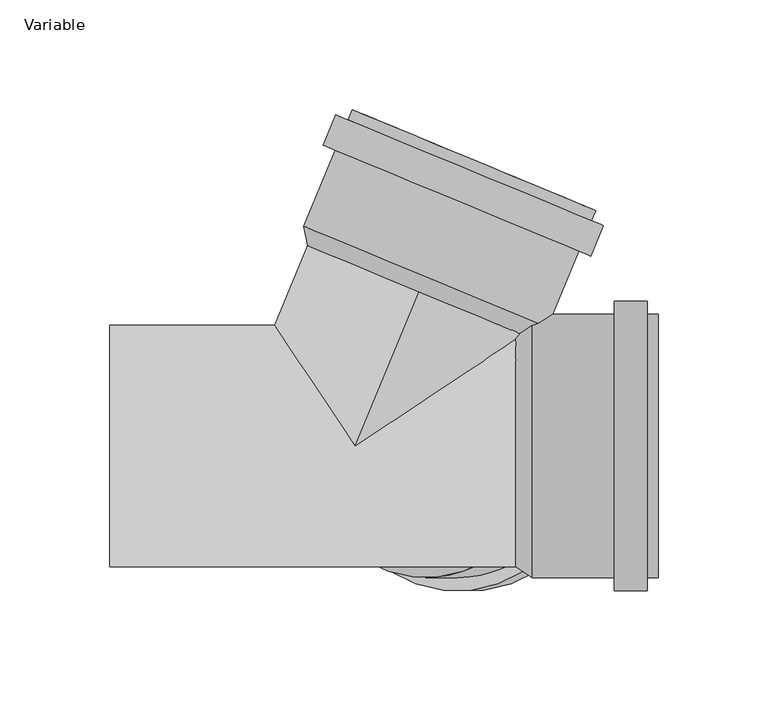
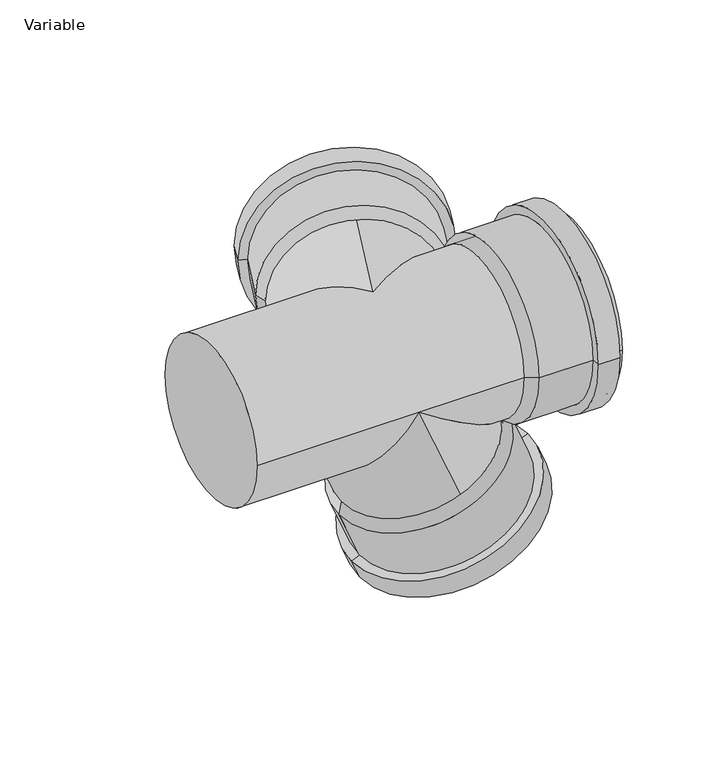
"""IFC4 building model written with IfcOpenShell, lengths in millimetres: pipe fitting geometry, AliaxisFR_Friaphon_DoubleCornerBranch_FR : Variable."""

from ifc_helpers import new_model, si_unit, frame, origin, place, context, project, spatial, polyline, circle_curve, ellipse_curve, source, transform, mapped, element, save
from ifc_brep_helpers import plane_surface, cylinder_surface, revolved_surface, advanced_brep


def variable_82db6654(model_context):
    return source(origin(), model_context, "Body", "AdvancedBrep", [
        advanced_brep(
        [(109.3911359, 0.0, -107.3060081), (-1.474408, 0.0, -153.22802), (3.1449897, 0.0, -151.3146029), (104.7717383, 0.0, -109.2194253), (107.2807445, 0.0, -86.5323169), (-14.6713538, 0.0, -137.04653), (-8.9311023, 0.0, -150.904723), (113.0209959, 0.0, -100.3905099), (101.7374673, 0.0, -88.8284175), (-9.1280766, 0.0, -134.7504294), (87.3868386, 0.0, -54.182935), (-23.4787053, 0.0, -100.1049469), (-21.7294334, 0.0, -91.2624333), (79.8973151, 0.0, -49.1672557), (107.4777188, 0.0, -102.6866105), (-3.3878251, 0.0, -148.6086224)],
        [
            (0, 1, circle_curve(frame((53.958364, 0.0, -130.2670141), z_axis=(0.38268343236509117, 0.0, -0.9238795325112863), x_axis=(-0.9238795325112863, 0.0, -0.38268343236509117)), 60.0)),
            (1, 2),
            (2, 3, circle_curve(frame((53.958364, 0.0, -130.2670141), z_axis=(-0.38268343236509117, 0.0, 0.9238795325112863), x_axis=(-0.9238795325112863, 0.0, -0.38268343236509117)), 55.0)),
            (3, 0),
            (1, 0, circle_curve(frame((53.958364, 0.0, -130.2670141), z_axis=(0.38268343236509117, 0.0, -0.9238795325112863), x_axis=(-0.9238795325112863, 0.0, -0.38268343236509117)), 60.0)),
            (3, 2, circle_curve(frame((53.958364, 0.0, -130.2670141), z_axis=(-0.38268343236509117, 0.0, 0.9238795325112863), x_axis=(-0.9238795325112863, 0.0, -0.38268343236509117)), 55.0)),
            (4, 5, circle_curve(frame((46.3046953, 0.0, -111.7894234), z_axis=(0.38268343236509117, 0.0, -0.9238795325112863), x_axis=(-0.9238795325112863, 0.0, -0.38268343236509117)), 66.0)),
            (5, 6),
            (6, 7, circle_curve(frame((52.0449468, 0.0, -125.6476164), z_axis=(-0.38268343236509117, 0.0, 0.9238795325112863), x_axis=(-0.9238795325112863, 0.0, -0.38268343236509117)), 66.0)),
            (7, 4),
            (5, 4, circle_curve(frame((46.3046953, 0.0, -111.7894234), z_axis=(0.38268343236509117, 0.0, -0.9238795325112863), x_axis=(-0.9238795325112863, 0.0, -0.38268343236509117)), 66.0)),
            (7, 6, circle_curve(frame((52.0449468, 0.0, -125.6476164), z_axis=(-0.38268343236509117, 0.0, 0.9238795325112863), x_axis=(-0.9238795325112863, 0.0, -0.38268343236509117)), 66.0)),
            (8, 9, circle_curve(frame((46.3046953, 0.0, -111.7894234), z_axis=(0.38268343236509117, 0.0, -0.9238795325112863), x_axis=(-0.9238795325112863, 0.0, -0.38268343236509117)), 60.0)),
            (9, 5),
            (4, 8),
            (9, 8, circle_curve(frame((46.3046953, 0.0, -111.7894234), z_axis=(0.38268343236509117, 0.0, -0.9238795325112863), x_axis=(-0.9238795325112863, 0.0, -0.38268343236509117)), 60.0)),
            (10, 11, circle_curve(frame((31.9540666, 0.0, -77.143941), z_axis=(0.38268343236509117, 0.0, -0.9238795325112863), x_axis=(-0.9238795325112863, 0.0, -0.38268343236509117)), 60.0)),
            (11, 9),
            (8, 10),
            (11, 10, circle_curve(frame((31.9540666, 0.0, -77.143941), z_axis=(0.38268343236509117, 0.0, -0.9238795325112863), x_axis=(-0.9238795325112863, 0.0, -0.38268343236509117)), 60.0)),
            (2, 12),
            (12, 13, circle_curve(frame((29.0839409, 0.0, -70.2148445), z_axis=(-0.38268343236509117, 0.0, 0.9238795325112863), x_axis=(-0.9238795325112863, 0.0, -0.38268343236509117)), 55.0)),
            (13, 3),
            (13, 12, circle_curve(frame((29.0839409, 0.0, -70.2148445), z_axis=(-0.38268343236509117, 0.0, 0.9238795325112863), x_axis=(-0.9238795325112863, 0.0, -0.38268343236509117)), 55.0)),
            (12, 11),
            (10, 13),
            (14, 15, circle_curve(frame((52.0449468, 0.0, -125.6476164), z_axis=(0.38268343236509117, 0.0, -0.9238795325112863), x_axis=(-0.9238795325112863, 0.0, -0.38268343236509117)), 60.0)),
            (15, 1),
            (0, 14),
            (15, 14, circle_curve(frame((52.0449468, 0.0, -125.6476164), z_axis=(0.38268343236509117, 0.0, -0.9238795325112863), x_axis=(-0.9238795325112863, 0.0, -0.38268343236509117)), 60.0)),
            (6, 15),
            (14, 7),
        ],
        [
            plane_surface(frame((53.958364, 0.0, -130.2670141), z_axis=(0.38268343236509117, 0.0, -0.9238795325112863), x_axis=(-0.9238795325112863, 0.0, -0.38268343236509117))),
            cylinder_surface(frame((29.0839409, 0.0, -70.2148445), z_axis=(-0.38268343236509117, 0.0, 0.9238795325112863), x_axis=(-0.9238795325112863, 0.0, -0.38268343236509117)), 66.0),
            plane_surface(frame((46.3046953, 0.0, -111.7894234), z_axis=(-0.38268343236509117, 0.0, 0.9238795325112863), x_axis=(-0.9238795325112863, 0.0, -0.38268343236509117))),
            cylinder_surface(frame((29.0839409, 0.0, -70.2148445), z_axis=(-0.38268343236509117, 0.0, 0.9238795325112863), x_axis=(-0.9238795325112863, 0.0, -0.38268343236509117)), 60.0),
            revolved_surface(polyline([(-21.72943340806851, 0.0, -91.26243323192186), (3.1449897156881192, 0.0, -151.31460289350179)]), (29.0839409, 0.0, -70.2148445), (-0.38268343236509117, 0.0, 0.9238795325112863)),
            revolved_surface(polyline([(-23.4787053, 0.0, -100.1049469), (-21.7294334, 0.0, -91.2624333)]), (29.0839409, 0.0, -70.2148445), (-0.38268343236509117, 0.0, 0.9238795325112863)),
            plane_surface(frame((52.0449468, 0.0, -125.6476164), z_axis=(0.38268343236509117, 0.0, -0.9238795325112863), x_axis=(-0.9238795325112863, 0.0, -0.38268343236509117))),
        ],
        [
            (0, [[1, 2, 3, 4]]),
            (0, [[5, -4, 6, -2]]),
            (1, [[7, 8, 9, 10]]),
            (1, [[11, -10, 12, -8]]),
            (2, [[13, 14, -7, 15]]),
            (2, [[16, -15, -11, -14]]),
            (3, [[17, 18, -13, 19]]),
            (3, [[20, -19, -16, -18]]),
            (4, [[-3, 21, 22, 23]]),
            (4, [[-6, -23, 24, -21]]),
            (5, [[-22, 25, -17, 26]]),
            (5, [[-24, -26, -20, -25]]),
            (3, [[27, 28, -1, 29]]),
            (3, [[30, -29, -5, -28]]),
            (6, [[-9, 31, -27, 32]]),
            (6, [[-12, -32, -30, -31]]),
        ],
    ),
        advanced_brep(
        [(138.0, -60.0, 0.0), (138.0, 60.0, 0.0), (138.0, 55.0, 0.0), (138.0, -55.0, 0.0), (118.0, -66.0, 0.0), (118.0, 66.0, 0.0), (133.0, 66.0, 0.0), (133.0, -66.0, 0.0), (118.0, -60.0, 0.0), (118.0, 60.0, 0.0), (80.5, -60.0, 0.0), (80.5, 60.0, 0.0), (73.0, 55.0, 0.0), (73.0, -55.0, 0.0), (133.0, -60.0, 0.0), (133.0, 60.0, 0.0)],
        [
            (0, 1, circle_curve(frame((138.0, 0.0, 0.0), z_axis=(1.0, 0.0, 0.0), x_axis=(0.0, 1.0, 0.0)), 60.0)),
            (1, 2),
            (2, 3, circle_curve(frame((138.0, 0.0, 0.0), z_axis=(-1.0, 0.0, 0.0), x_axis=(0.0, 1.0, 0.0)), 55.0)),
            (3, 0),
            (1, 0, circle_curve(frame((138.0, 0.0, 0.0), z_axis=(1.0, 0.0, 0.0), x_axis=(0.0, 1.0, 0.0)), 60.0)),
            (3, 2, circle_curve(frame((138.0, 0.0, 0.0), z_axis=(-1.0, 0.0, 0.0), x_axis=(0.0, 1.0, 0.0)), 55.0)),
            (4, 5, circle_curve(frame((118.0, 0.0, 0.0), z_axis=(1.0, 0.0, 0.0), x_axis=(0.0, 1.0, 0.0)), 66.0)),
            (5, 6),
            (6, 7, circle_curve(frame((133.0, 0.0, 0.0), z_axis=(-1.0, 0.0, 0.0), x_axis=(0.0, 1.0, 0.0)), 66.0)),
            (7, 4),
            (5, 4, circle_curve(frame((118.0, 0.0, 0.0), z_axis=(1.0, 0.0, 0.0), x_axis=(0.0, 1.0, 0.0)), 66.0)),
            (7, 6, circle_curve(frame((133.0, 0.0, 0.0), z_axis=(-1.0, 0.0, 0.0), x_axis=(0.0, 1.0, 0.0)), 66.0)),
            (8, 9, circle_curve(frame((118.0, 0.0, 0.0), z_axis=(1.0, 0.0, 0.0), x_axis=(0.0, 1.0, 0.0)), 60.0)),
            (9, 5),
            (4, 8),
            (9, 8, circle_curve(frame((118.0, 0.0, 0.0), z_axis=(1.0, 0.0, 0.0), x_axis=(0.0, 1.0, 0.0)), 60.0)),
            (10, 11, circle_curve(frame((80.5, 0.0, 0.0), z_axis=(1.0, 0.0, 0.0), x_axis=(0.0, 1.0, 0.0)), 60.0)),
            (11, 9),
            (8, 10),
            (11, 10, circle_curve(frame((80.5, 0.0, 0.0), z_axis=(1.0, 0.0, 0.0), x_axis=(0.0, 1.0, 0.0)), 60.0)),
            (2, 12),
            (12, 13, circle_curve(frame((73.0, 0.0, 0.0), z_axis=(-1.0, 0.0, 0.0), x_axis=(0.0, 1.0, 0.0)), 55.0)),
            (13, 3),
            (13, 12, circle_curve(frame((73.0, 0.0, 0.0), z_axis=(-1.0, 0.0, 0.0), x_axis=(0.0, 1.0, 0.0)), 55.0)),
            (12, 11),
            (10, 13),
            (14, 15, circle_curve(frame((133.0, 0.0, 0.0), z_axis=(1.0, 0.0, 0.0), x_axis=(0.0, 1.0, 0.0)), 60.0)),
            (15, 1),
            (0, 14),
            (15, 14, circle_curve(frame((133.0, 0.0, 0.0), z_axis=(1.0, 0.0, 0.0), x_axis=(0.0, 1.0, 0.0)), 60.0)),
            (6, 15),
            (14, 7),
        ],
        [
            plane_surface(frame((138.0, 0.0, 0.0), z_axis=(1.0, 0.0, 0.0), x_axis=(0.0, 1.0, 0.0))),
            cylinder_surface(frame((73.0, 0.0, 0.0), z_axis=(-1.0, 0.0, 0.0), x_axis=(0.0, 1.0, 0.0)), 66.0),
            plane_surface(frame((118.0, 0.0, 0.0), z_axis=(-1.0, 0.0, 0.0), x_axis=(0.0, 1.0, 0.0))),
            cylinder_surface(frame((73.0, 0.0, 0.0), z_axis=(-1.0, 0.0, 0.0), x_axis=(0.0, 1.0, 0.0)), 60.0),
            revolved_surface(polyline([(73.0, 55.0, 0.0), (138.0, 55.0, 0.0)]), (73.0, 0.0, 0.0), (-1.0, 0.0, 0.0)),
            revolved_surface(polyline([(80.5, 60.0, 0.0), (73.0, 55.0, 0.0)]), (73.0, 0.0, 0.0), (-1.0, 0.0, 0.0)),
            plane_surface(frame((133.0, 0.0, 0.0), z_axis=(1.0, 0.0, 0.0), x_axis=(0.0, 1.0, 0.0))),
        ],
        [
            (0, [[1, 2, 3, 4]]),
            (0, [[5, -4, 6, -2]]),
            (1, [[7, 8, 9, 10]]),
            (1, [[11, -10, 12, -8]]),
            (2, [[13, 14, -7, 15]]),
            (2, [[16, -15, -11, -14]]),
            (3, [[17, 18, -13, 19]]),
            (3, [[20, -19, -16, -18]]),
            (4, [[-3, 21, 22, 23]]),
            (4, [[-6, -23, 24, -21]]),
            (5, [[-22, 25, -17, 26]]),
            (5, [[-24, -26, -20, -25]]),
            (3, [[27, 28, -1, 29]]),
            (3, [[30, -29, -5, -28]]),
            (6, [[-9, 31, -27, 32]]),
            (6, [[-12, -32, -30, -31]]),
        ],
    ),
        advanced_brep(
        [(109.3911359, 107.3060081, 0.0), (-1.474408, 153.22802, 0.0), (3.1449897, 151.3146029, 0.0), (104.7717383, 109.2194253, 0.0), (107.2807445, 86.5323169, 0.0), (-14.6713538, 137.04653, 0.0), (-8.9311023, 150.904723, 0.0), (113.0209959, 100.3905099, 0.0), (101.7374673, 88.8284175, 0.0), (-9.1280766, 134.7504294, 0.0), (87.3868386, 54.182935, 0.0), (-23.4787053, 100.1049469, 0.0), (-21.7294334, 91.2624333, 0.0), (79.8973151, 49.1672557, 0.0), (107.4777188, 102.6866105, 0.0), (-3.3878251, 148.6086224, 0.0)],
        [
            (0, 1, circle_curve(frame((53.958364, 130.2670141, 0.0), z_axis=(0.38268343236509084, 0.9238795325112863, 0.0), x_axis=(-0.9238795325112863, 0.38268343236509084, 0.0)), 60.0)),
            (1, 2),
            (2, 3, circle_curve(frame((53.958364, 130.2670141, 0.0), z_axis=(-0.38268343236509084, -0.9238795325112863, 0.0), x_axis=(-0.9238795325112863, 0.38268343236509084, 0.0)), 55.0)),
            (3, 0),
            (1, 0, circle_curve(frame((53.958364, 130.2670141, 0.0), z_axis=(0.38268343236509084, 0.9238795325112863, 0.0), x_axis=(-0.9238795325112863, 0.38268343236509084, 0.0)), 60.0)),
            (3, 2, circle_curve(frame((53.958364, 130.2670141, 0.0), z_axis=(-0.38268343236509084, -0.9238795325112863, 0.0), x_axis=(-0.9238795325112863, 0.38268343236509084, 0.0)), 55.0)),
            (4, 5, circle_curve(frame((46.3046953, 111.7894234, 0.0), z_axis=(0.38268343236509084, 0.9238795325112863, 0.0), x_axis=(-0.9238795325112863, 0.38268343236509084, 0.0)), 66.0)),
            (5, 6),
            (6, 7, circle_curve(frame((52.0449468, 125.6476164, 0.0), z_axis=(-0.38268343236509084, -0.9238795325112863, 0.0), x_axis=(-0.9238795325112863, 0.38268343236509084, 0.0)), 66.0)),
            (7, 4),
            (5, 4, circle_curve(frame((46.3046953, 111.7894234, 0.0), z_axis=(0.38268343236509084, 0.9238795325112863, 0.0), x_axis=(-0.9238795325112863, 0.38268343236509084, 0.0)), 66.0)),
            (7, 6, circle_curve(frame((52.0449468, 125.6476164, 0.0), z_axis=(-0.38268343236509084, -0.9238795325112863, 0.0), x_axis=(-0.9238795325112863, 0.38268343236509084, 0.0)), 66.0)),
            (8, 9, circle_curve(frame((46.3046953, 111.7894234, 0.0), z_axis=(0.38268343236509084, 0.9238795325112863, 0.0), x_axis=(-0.9238795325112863, 0.38268343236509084, 0.0)), 60.0)),
            (9, 5),
            (4, 8),
            (9, 8, circle_curve(frame((46.3046953, 111.7894234, 0.0), z_axis=(0.38268343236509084, 0.9238795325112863, 0.0), x_axis=(-0.9238795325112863, 0.38268343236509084, 0.0)), 60.0)),
            (10, 11, circle_curve(frame((31.9540666, 77.143941, 0.0), z_axis=(0.38268343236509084, 0.9238795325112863, 0.0), x_axis=(-0.9238795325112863, 0.38268343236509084, 0.0)), 60.0)),
            (11, 9),
            (8, 10),
            (11, 10, circle_curve(frame((31.9540666, 77.143941, 0.0), z_axis=(0.38268343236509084, 0.9238795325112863, 0.0), x_axis=(-0.9238795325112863, 0.38268343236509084, 0.0)), 60.0)),
            (2, 12),
            (12, 13, circle_curve(frame((29.0839409, 70.2148445, 0.0), z_axis=(-0.38268343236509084, -0.9238795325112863, 0.0), x_axis=(-0.9238795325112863, 0.38268343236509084, 0.0)), 55.0)),
            (13, 3),
            (13, 12, circle_curve(frame((29.0839409, 70.2148445, 0.0), z_axis=(-0.38268343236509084, -0.9238795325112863, 0.0), x_axis=(-0.9238795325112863, 0.38268343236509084, 0.0)), 55.0)),
            (12, 11),
            (10, 13),
            (14, 15, circle_curve(frame((52.0449468, 125.6476164, 0.0), z_axis=(0.38268343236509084, 0.9238795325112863, 0.0), x_axis=(-0.9238795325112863, 0.38268343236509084, 0.0)), 60.0)),
            (15, 1),
            (0, 14),
            (15, 14, circle_curve(frame((52.0449468, 125.6476164, 0.0), z_axis=(0.38268343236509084, 0.9238795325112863, 0.0), x_axis=(-0.9238795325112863, 0.38268343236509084, 0.0)), 60.0)),
            (6, 15),
            (14, 7),
        ],
        [
            plane_surface(frame((53.958364, 130.2670141, 0.0), z_axis=(0.38268343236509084, 0.9238795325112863, 0.0), x_axis=(-0.9238795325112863, 0.38268343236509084, 0.0))),
            cylinder_surface(frame((29.0839409, 70.2148445, 0.0), z_axis=(-0.38268343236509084, -0.9238795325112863, 0.0), x_axis=(-0.9238795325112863, 0.38268343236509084, 0.0)), 66.0),
            plane_surface(frame((46.3046953, 111.7894234, 0.0), z_axis=(-0.38268343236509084, -0.9238795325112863, 0.0), x_axis=(-0.9238795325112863, 0.38268343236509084, 0.0))),
            cylinder_surface(frame((29.0839409, 70.2148445, 0.0), z_axis=(-0.38268343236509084, -0.9238795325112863, 0.0), x_axis=(-0.9238795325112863, 0.38268343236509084, 0.0)), 60.0),
            revolved_surface(polyline([(-21.729433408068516, 91.26243323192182, 0.0), (3.144989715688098, 151.31460289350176, 0.0)]), (29.0839409, 70.2148445, 0.0), (-0.38268343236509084, -0.9238795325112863, 0.0)),
            revolved_surface(polyline([(-23.4787053, 100.1049469, 0.0), (-21.7294334, 91.2624333, 0.0)]), (29.0839409, 70.2148445, 0.0), (-0.38268343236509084, -0.9238795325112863, 0.0)),
            plane_surface(frame((52.0449468, 125.6476164, 0.0), z_axis=(0.38268343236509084, 0.9238795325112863, 0.0), x_axis=(-0.9238795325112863, 0.38268343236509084, 0.0))),
        ],
        [
            (0, [[1, 2, 3, 4]]),
            (0, [[5, -4, 6, -2]]),
            (1, [[7, 8, 9, 10]]),
            (1, [[11, -10, 12, -8]]),
            (2, [[13, 14, -7, 15]]),
            (2, [[16, -15, -11, -14]]),
            (3, [[17, 18, -13, 19]]),
            (3, [[20, -19, -16, -18]]),
            (4, [[-3, 21, 22, 23]]),
            (4, [[-6, -23, 24, -21]]),
            (5, [[-22, 25, -17, 26]]),
            (5, [[-24, -26, -20, -25]]),
            (3, [[27, 28, -1, 29]]),
            (3, [[30, -29, -5, -28]]),
            (6, [[-9, 31, -27, 32]]),
            (6, [[-12, -32, -30, -31]]),
        ],
    ),
        advanced_brep(
        [(30.997358, 74.8342421, -55.0), (30.997358, 74.8342421, 55.0), (0.0, 0.0, 55.0), (78.0, 52.1179338, 17.5704576), (78.0, 52.1179338, -17.5704576), (58.2043046, 38.890873, -38.890873), (22.7817459, 55.0, -55.0), (-25.9860505, 38.890873, -38.890873), (-36.7498251, 55.0, 0.0), (78.0, -55.0, 0.0), (78.0, -17.5704576, -52.1179338), (78.0, 17.5704576, -52.1179338), (-112.0, -55.0, 0.0), (-112.0, 55.0, 0.0), (0.0, -55.0, 0.0), (30.997358, -55.0, -74.8342421), (30.997358, 55.0, -74.8342421)],
        [
            (0, 1, circle_curve(frame((30.997358, 74.8342421, 0.0), z_axis=(0.3826834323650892, 0.923879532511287, 0.0), x_axis=(0.0, 0.0, 1.0)), 55.0)),
            (1, 0, circle_curve(frame((30.997358, 74.8342421, 0.0), z_axis=(0.3826834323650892, 0.923879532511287, 0.0), x_axis=(0.0, 0.0, 1.0)), 55.0)),
            (1, 2),
            (2, 3, ellipse_curve(frame((0.0, 0.0, 0.0), z_axis=(-0.5555702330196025, 0.831469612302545, 0.0), x_axis=(-0.831469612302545, -0.5555702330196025, 0.0)), 98.9973845, 55.0)),
            (3, 4, ellipse_curve(frame((78.0, 188.3086579, 0.0), z_axis=(1.0, 0.0, 0.0), x_axis=(0.0, -1.0, 0.0)), 143.7219261, 55.0)),
            (4, 5, ellipse_curve(frame((0.0, 0.0, 0.0), z_axis=(-0.5555702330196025, 0.831469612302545, 0.0), x_axis=(-0.831469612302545, -0.5555702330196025, 0.0)), 98.9973845, 55.0)),
            (5, 6, ellipse_curve(frame((0.0, 0.0, 0.0), z_axis=(0.0, 0.7071067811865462, 0.707106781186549), x_axis=(-0.5054494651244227, -0.6101314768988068, 0.610131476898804)), 84.1903551, 55.0)),
            (6, 0),
            (6, 7, ellipse_curve(frame((0.0, 0.0, 0.0), z_axis=(0.0, 0.7071067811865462, 0.707106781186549), x_axis=(-0.5054494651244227, -0.6101314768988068, 0.610131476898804)), 84.1903551, 55.0)),
            (7, 8, ellipse_curve(frame((0.0, 0.0, 0.0), z_axis=(0.831469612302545, 0.5555702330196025, 0.0), x_axis=(0.5555702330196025, -0.8314696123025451, 0.0)), 66.1479376, 55.0)),
            (8, 2, ellipse_curve(frame((0.0, 0.0, 0.0), z_axis=(0.831469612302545, 0.5555702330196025, 0.0), x_axis=(0.5555702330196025, -0.8314696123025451, 0.0)), 66.1479376, 55.0)),
            (3, 9, circle_curve(frame((78.0, 0.0, 0.0), z_axis=(1.0, 0.0, 0.0), x_axis=(0.0, 1.0, 0.0)), 55.0)),
            (9, 10, circle_curve(frame((78.0, 0.0, 0.0), z_axis=(1.0, 0.0, 0.0), x_axis=(0.0, 1.0, 0.0)), 55.0)),
            (10, 11, ellipse_curve(frame((78.0, 0.0, -188.3086579), z_axis=(-1.0, 0.0, 0.0), x_axis=(0.0, 0.0, 0.9999999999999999)), 143.7219261, 55.0)),
            (11, 4, circle_curve(frame((78.0, 0.0, 0.0), z_axis=(1.0, 0.0, 0.0), x_axis=(0.0, 1.0, 0.0)), 55.0)),
            (12, 13, circle_curve(frame((-112.0, 0.0, 0.0), z_axis=(-1.0, 0.0, 0.0), x_axis=(0.0, 1.0, 0.0)), 55.0)),
            (13, 12, circle_curve(frame((-112.0, 0.0, 0.0), z_axis=(-1.0, 0.0, 0.0), x_axis=(0.0, 1.0, 0.0)), 55.0)),
            (11, 5, ellipse_curve(frame((0.0, 0.0, 0.0), z_axis=(0.5555702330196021, 0.0, 0.8314696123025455), x_axis=(0.8314696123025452, 0.0, -0.5555702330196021)), 98.9973845, 55.0)),
            (9, 14),
            (14, 10, ellipse_curve(frame((0.0, 0.0, 0.0), z_axis=(0.5555702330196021, 0.0, 0.8314696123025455), x_axis=(0.8314696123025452, 0.0, -0.5555702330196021)), 98.9973845, 55.0)),
            (13, 8),
            (7, 14, ellipse_curve(frame((0.0, 0.0, 0.0), z_axis=(-0.8314696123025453, 0.0, 0.5555702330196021), x_axis=(0.5555702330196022, 0.0, 0.8314696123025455)), 66.1479376, 55.0)),
            (14, 12),
            (15, 16, circle_curve(frame((30.997358, 0.0, -74.8342421), z_axis=(0.3826834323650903, 0.0, -0.9238795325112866), x_axis=(0.0, 1.0, 0.0)), 55.0)),
            (16, 15, circle_curve(frame((30.997358, 0.0, -74.8342421), z_axis=(0.3826834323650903, 0.0, -0.9238795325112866), x_axis=(0.0, 1.0, 0.0)), 55.0)),
            (16, 6),
            (14, 15),
        ],
        [
            plane_surface(frame((30.997358, 74.8342421, 55.0), z_axis=(0.3826834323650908, 0.9238795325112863, 0.0), x_axis=(0.9238795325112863, -0.3826834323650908, 0.0))),
            cylinder_surface(frame((30.997358, 74.8342421, 0.0), z_axis=(-0.3826834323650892, -0.923879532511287, 0.0), x_axis=(0.0, 0.0, 1.0)), 55.0),
            plane_surface(frame((78.0, 55.0, 0.0), z_axis=(1.0, 0.0, 0.0), x_axis=(0.0, 0.0, 1.0))),
            plane_surface(frame((-112.0, 55.0, 0.0), z_axis=(-1.0, 0.0, 0.0), x_axis=(0.0, 0.0, -1.0))),
            cylinder_surface(frame((-112.0, 0.0, 0.0), z_axis=(1.0, 0.0, 0.0), x_axis=(0.0, 1.0, 0.0)), 55.0),
            plane_surface(frame((30.997358, 55.0, -74.8342421), z_axis=(0.38268343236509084, 0.0, -0.9238795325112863), x_axis=(0.9238795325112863, 0.0, 0.38268343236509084))),
            cylinder_surface(frame((30.997358, 0.0, -74.8342421), z_axis=(-0.3826834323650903, 0.0, 0.9238795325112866), x_axis=(0.0, 1.0, 0.0)), 55.0),
        ],
        [
            (0, [[1, 2]]),
            (1, [[-2, 3, 4, 5, 6, 7, 8]]),
            (1, [[-1, -8, 9, 10, 11, -3]]),
            (2, [[12, 13, 14, 15, -5]]),
            (3, [[16, 17]]),
            (4, [[-6, -15, 18]]),
            (4, [[-13, 19, 20]]),
            (4, [[-17, 21, -10, 22, 23]]),
            (4, [[-16, -23, -19, -12, -4, -11, -21]]),
            (5, [[24, 25]]),
            (6, [[-25, 26, -7, -18, -14, -20, 27]]),
            (6, [[-24, -27, -22, -9, -26]]),
        ],
    ),
    ])


if __name__ == "__main__":
    model = new_model("IFC4")
    model_context = context("Model", 3, world=origin())
    ifc_project = project(units=[si_unit("LENGTHUNIT", "METRE", prefix="MILLI")], contexts=[model_context])
    site = spatial("IfcSite", under=ifc_project)
    building = spatial("IfcBuilding", under=site)
    placement = place(None, origin())
    variable_shape = variable_82db6654(model_context)
    element("IfcPipeFitting", 1, ObjectType="AliaxisFR_Friaphon_DoubleCornerBranch_FR : Variable", at=placement, inside=building, context=model_context, shape_type="MappedRepresentation", body=[
        mapped(variable_shape, transform((0.0, 0.0, 0.0), x_axis=(1.0, 0.0, 0.0), y_axis=(0.0, 1.0, 0.0), z_axis=(0.0, 0.0, 1.0))),
    ])
    save(model, "model.ifc")
